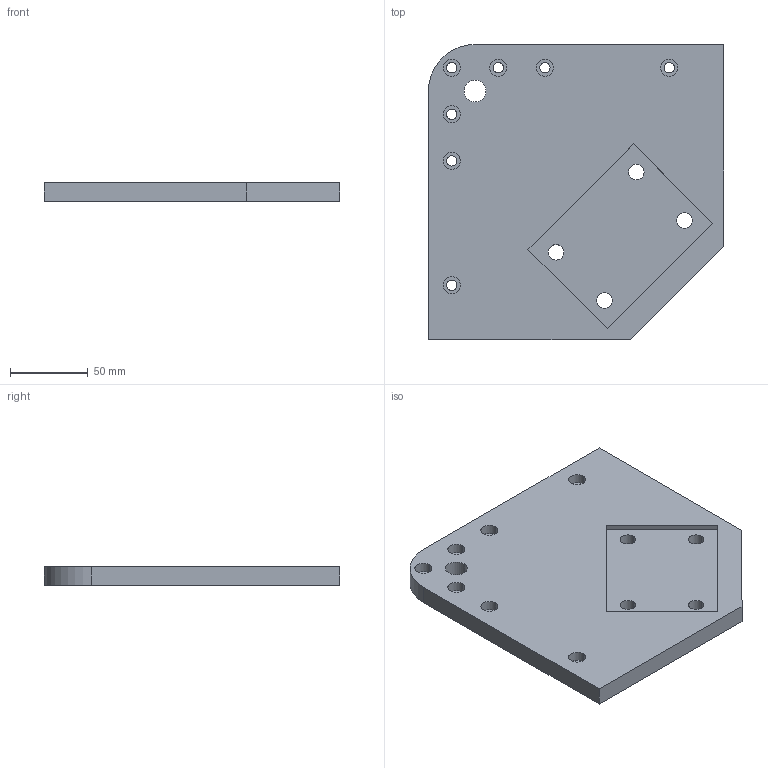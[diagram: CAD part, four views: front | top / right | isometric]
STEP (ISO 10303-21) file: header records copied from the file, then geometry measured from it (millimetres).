
FILE_DESCRIPTION (( 'STEP AP203' ), '1' );
FILE_NAME ('RPF06190.STEP', '2024-02-19T03:16:39', ( '' ), ( '' ), 'SwSTEP 2.0', 'SolidWorks 2022', '' );
FILE_SCHEMA (( 'CONFIG_CONTROL_DESIGN' ));
Length unit declared in the file: millimetre
Products named in the file (1): RPF06190
Bounding box: 190 x 190 x 12 mm (x, y, z)
Volume: 378229.8 mm3; surface area: 80371.2 mm2
Topology: 1 solids, 1 shells, 58 faces, 144 edges, 96 vertices
Faces by surface type: cylinder 39, plane 19
Entity records: 1891 total; most frequent: DIRECTION 340, CARTESIAN_POINT 299, ORIENTED_EDGE 288, EDGE_CURVE 144, AXIS2_PLACEMENT_3D 137, VERTEX_POINT 96, EDGE_LOOP 90, CIRCLE 78
